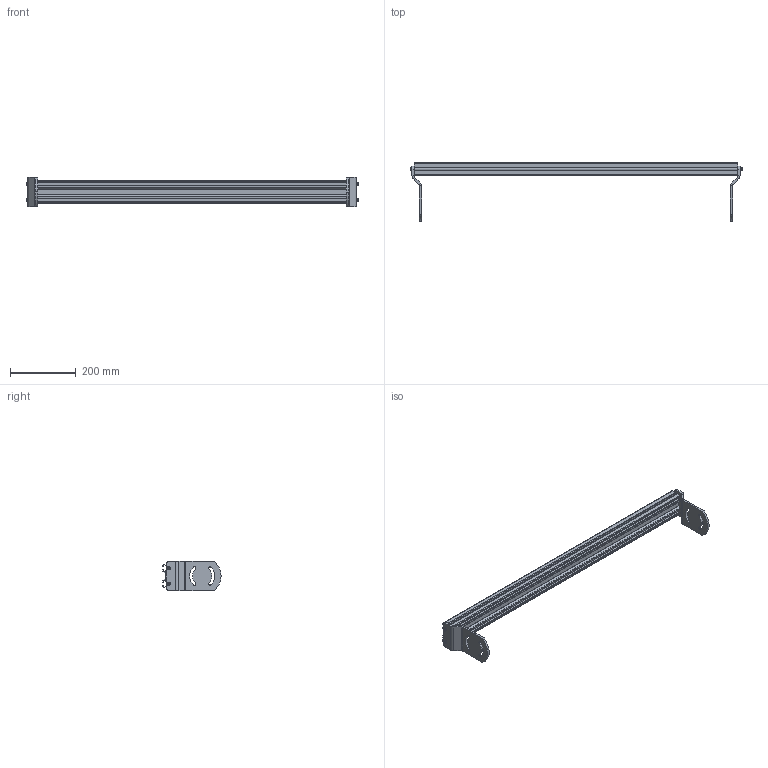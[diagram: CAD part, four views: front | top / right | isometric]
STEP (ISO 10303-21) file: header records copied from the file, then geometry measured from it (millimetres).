
FILE_DESCRIPTION((''),'2;1');
FILE_NAME('39MCM36-2_ASM','2023-03-01T',('jenni.wallner'),(''),'PRO/ENGINEER BY PARAMETRIC TECHNOLOGY CORPORATION, 2012420','PRO/ENGINEER BY PARAMETRIC TECHNOLOGY CORPORATION, 2012420','');
FILE_SCHEMA(('CONFIG_CONTROL_DESIGN'));
Length unit declared in the file: inch
Products named in the file (5): 710210_03879; 300825M; 708180P; 39MCM36-2_ASM_ASM; 39MCM36-2_ASM
Assembly tree (8 placements, depth 3):
  39MCM36-2_ASM
    39MCM36-2_ASM_ASM
      710210_03879
      300825M  x2
      708180P  x4
Bounding box: 1009.97 x 176.65 x 88.93 mm (x, y, z)
Volume: 874812.5 mm3; surface area: 649526.9 mm2
Topology: 7 solids, 7 shells, 256 faces, 702 edges, 468 vertices
Faces by surface type: plane 144, cylinder 92, cone 20
Entity records: 5052 total; most frequent: CARTESIAN_POINT 890, DIRECTION 863, ORIENTED_EDGE 836, EDGE_CURVE 418, VECTOR 301, LINE 301, AXIS2_PLACEMENT_3D 281, VERTEX_POINT 276
